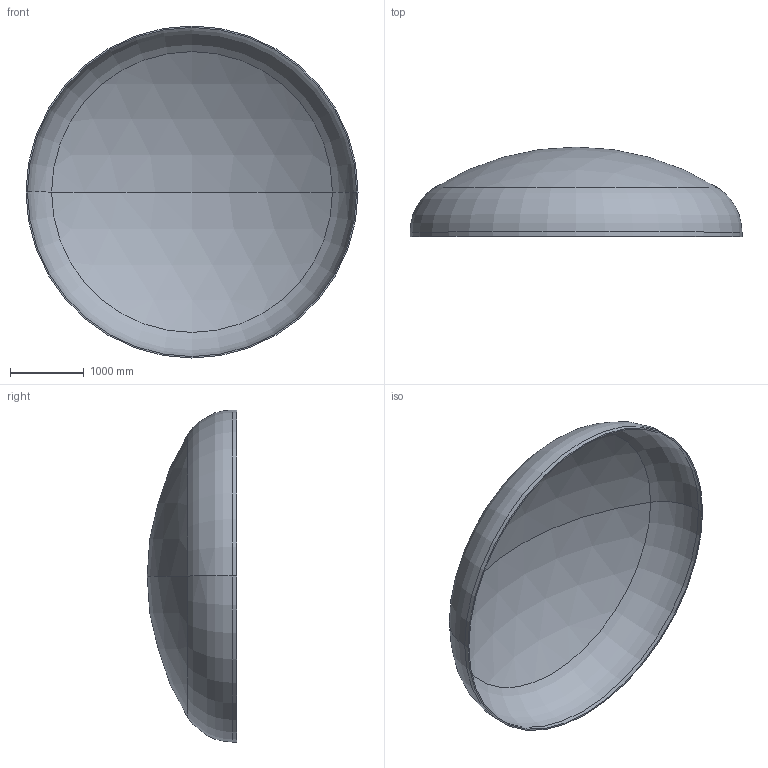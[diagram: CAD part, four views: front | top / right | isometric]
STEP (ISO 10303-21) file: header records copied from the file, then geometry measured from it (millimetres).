
FILE_DESCRIPTION (( 'STEP AP203' ), '1' );
FILE_NAME ('DIN 28013 Korbbogenform_-_Boden DIN 28013 - 4500 x 60 - I - s=19.step', '2016-07-01T23:08:10', ( '' ), ( '' ), 'SwSTEP 2.0', 'SolidWorks 2013', '' );
FILE_SCHEMA (( 'CONFIG_CONTROL_DESIGN' ));
Length unit declared in the file: millimetre
Products named in the file (1): DIN 28013 Korbbogenform_-_Boden DIN 28013 - 4500 x 60 - I - s=19
Bounding box: 4500 x 1213.29 x 4500 mm (x, y, z)
Volume: 432489896.5 mm3; surface area: 45793462.2 mm2
Topology: 1 solids, 1 shells, 13 faces, 24 edges, 14 vertices
Faces by surface type: torus 4, cylinder 4, sphere 4, plane 1
Entity records: 407 total; most frequent: DIRECTION 72, CARTESIAN_POINT 52, ORIENTED_EDGE 48, AXIS2_PLACEMENT_3D 34, EDGE_CURVE 24, CIRCLE 20, EDGE_LOOP 14, VERTEX_POINT 14
